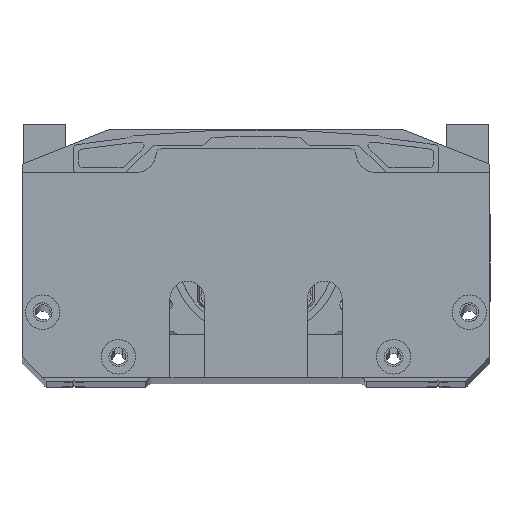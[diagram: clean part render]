
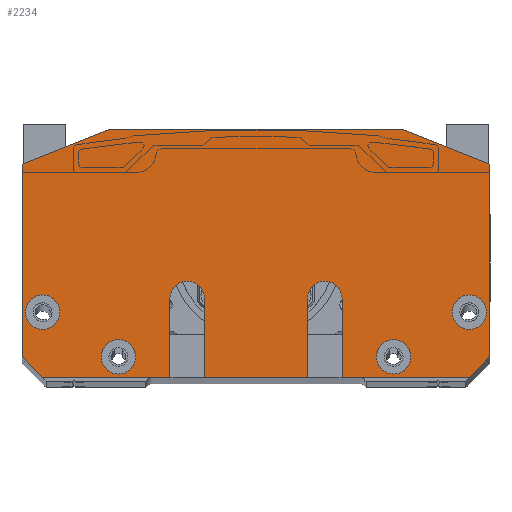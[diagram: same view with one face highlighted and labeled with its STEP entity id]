
A CAD part, top view. The second image highlights one B-rep face of the part: STEP entity #2234.
In plain terms, the highlighted planar face has unit normal (0, 0, 1).
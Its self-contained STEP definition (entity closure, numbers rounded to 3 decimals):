
#2234=ADVANCED_FACE('9',(#3307,#3308,#3309,#3310,#3311),#2891,.T.);
#2891=PLANE('',#18897);
#3307=FACE_BOUND('',#4323,.T.);
#3308=FACE_BOUND('',#4324,.T.);
#3309=FACE_BOUND('',#4325,.T.);
#3310=FACE_BOUND('',#4326,.T.);
#3311=FACE_BOUND('',#4327,.T.);
#4323=EDGE_LOOP('',(#8752,#8753,#8754,#8755,#8756,#8757,#8758,#8759,#8760,
#8761,#8762,#8763,#8764,#8765,#8766,#8767));
#4324=EDGE_LOOP('',(#8768));
#4325=EDGE_LOOP('',(#8769));
#4326=EDGE_LOOP('',(#8770));
#4327=EDGE_LOOP('',(#8771));
#5491=CIRCLE('',#18856,5.);
#5493=CIRCLE('',#18861,5.);
#5511=CIRCLE('',#18893,5.);
#5512=CIRCLE('',#18894,5.);
#5513=CIRCLE('',#18895,5.);
#5514=CIRCLE('',#18896,5.);
#8752=ORIENTED_EDGE('',*,*,#14328,.T.);
#8753=ORIENTED_EDGE('',*,*,#14330,.T.);
#8754=ORIENTED_EDGE('',*,*,#14324,.T.);
#8755=ORIENTED_EDGE('',*,*,#13430,.F.);
#8756=ORIENTED_EDGE('',*,*,#14336,.T.);
#8757=ORIENTED_EDGE('',*,*,#14338,.T.);
#8758=ORIENTED_EDGE('',*,*,#14332,.T.);
#8759=ORIENTED_EDGE('',*,*,#13427,.F.);
#8760=ORIENTED_EDGE('',*,*,#13444,.T.);
#8761=ORIENTED_EDGE('',*,*,#13470,.F.);
#8762=ORIENTED_EDGE('',*,*,#14347,.T.);
#8763=ORIENTED_EDGE('',*,*,#14369,.F.);
#8764=ORIENTED_EDGE('',*,*,#14350,.T.);
#8765=ORIENTED_EDGE('',*,*,#13383,.F.);
#8766=ORIENTED_EDGE('',*,*,#13415,.T.);
#8767=ORIENTED_EDGE('',*,*,#13433,.F.);
#8768=ORIENTED_EDGE('',*,*,#14370,.F.);
#8769=ORIENTED_EDGE('',*,*,#14371,.F.);
#8770=ORIENTED_EDGE('',*,*,#14372,.F.);
#8771=ORIENTED_EDGE('',*,*,#14373,.F.);
#11473=VERTEX_POINT('',#26926);
#11474=VERTEX_POINT('',#26928);
#11492=VERTEX_POINT('',#26986);
#11498=VERTEX_POINT('',#27007);
#11499=VERTEX_POINT('',#27009);
#11500=VERTEX_POINT('',#27012);
#11501=VERTEX_POINT('',#27014);
#11502=VERTEX_POINT('',#27017);
#11509=VERTEX_POINT('',#27038);
#11531=VERTEX_POINT('',#27088);
#12058=VERTEX_POINT('',#30633);
#12060=VERTEX_POINT('',#30639);
#12062=VERTEX_POINT('',#30648);
#12064=VERTEX_POINT('',#30654);
#12073=VERTEX_POINT('',#30679);
#12075=VERTEX_POINT('',#30685);
#12085=VERTEX_POINT('',#30725);
#12086=VERTEX_POINT('',#30727);
#12087=VERTEX_POINT('',#30729);
#12088=VERTEX_POINT('',#30731);
#13383=EDGE_CURVE('',#11473,#11474,#15534,.T.);
#13415=EDGE_CURVE('',#11473,#11492,#15556,.T.);
#13427=EDGE_CURVE('',#11498,#11499,#15567,.T.);
#13430=EDGE_CURVE('',#11500,#11501,#15570,.T.);
#13433=EDGE_CURVE('',#11502,#11492,#15573,.T.);
#13444=EDGE_CURVE('',#11498,#11509,#15583,.T.);
#13470=EDGE_CURVE('',#11531,#11509,#15607,.T.);
#14324=EDGE_CURVE('',#12058,#11501,#16022,.T.);
#14328=EDGE_CURVE('',#11502,#12060,#16026,.T.);
#14330=EDGE_CURVE('',#12060,#12058,#5491,.T.);
#14332=EDGE_CURVE('',#12062,#11499,#16028,.T.);
#14336=EDGE_CURVE('',#11500,#12064,#16032,.T.);
#14338=EDGE_CURVE('',#12064,#12062,#5493,.T.);
#14347=EDGE_CURVE('',#11531,#12073,#16037,.T.);
#14350=EDGE_CURVE('',#12075,#11474,#16040,.T.);
#14369=EDGE_CURVE('',#12075,#12073,#16046,.T.);
#14370=EDGE_CURVE('',#12085,#12085,#5511,.T.);
#14371=EDGE_CURVE('',#12086,#12086,#5512,.T.);
#14372=EDGE_CURVE('',#12087,#12087,#5513,.T.);
#14373=EDGE_CURVE('',#12088,#12088,#5514,.T.);
#15534=LINE('',#26927,#16832);
#15556=LINE('',#26987,#16854);
#15567=LINE('',#27008,#16865);
#15570=LINE('',#27013,#16868);
#15573=LINE('',#27018,#16871);
#15583=LINE('',#27039,#16881);
#15607=LINE('',#27089,#16905);
#16022=LINE('',#30632,#17320);
#16026=LINE('',#30640,#17324);
#16028=LINE('',#30647,#17326);
#16032=LINE('',#30655,#17330);
#16037=LINE('',#30678,#17335);
#16040=LINE('',#30684,#17338);
#16046=LINE('',#30723,#17344);
#16832=VECTOR('',#20772,1.);
#16854=VECTOR('',#20832,1.);
#16865=VECTOR('',#20851,1.);
#16868=VECTOR('',#20854,1.);
#16871=VECTOR('',#20857,1.);
#16881=VECTOR('',#20875,1.);
#16905=VECTOR('',#20907,1.);
#17320=VECTOR('',#22654,1.);
#17324=VECTOR('',#22660,1.);
#17326=VECTOR('',#22670,1.);
#17330=VECTOR('',#22676,1.);
#17335=VECTOR('',#22701,1.);
#17338=VECTOR('',#22706,1.);
#17344=VECTOR('',#22758,1.);
#18856=AXIS2_PLACEMENT_3D('',#30643,#22665,#22666);
#18861=AXIS2_PLACEMENT_3D('',#30658,#22681,#22682);
#18893=AXIS2_PLACEMENT_3D('',#30724,#22759,#22760);
#18894=AXIS2_PLACEMENT_3D('',#30726,#22761,#22762);
#18895=AXIS2_PLACEMENT_3D('',#30728,#22763,#22764);
#18896=AXIS2_PLACEMENT_3D('',#30730,#22765,#22766);
#18897=AXIS2_PLACEMENT_3D('',#30732,#22767,#22768);
#20772=DIRECTION('',(0.,1.,0.));
#20832=DIRECTION('',(0.707,-0.707,0.));
#20851=DIRECTION('',(-1.,0.,0.));
#20854=DIRECTION('',(-1.,0.,0.));
#20857=DIRECTION('',(-1.,0.,0.));
#20875=DIRECTION('',(0.707,0.707,0.));
#20907=DIRECTION('',(0.,-1.,0.));
#22654=DIRECTION('',(0.,-1.,0.));
#22660=DIRECTION('',(0.,1.,0.));
#22665=DIRECTION('',(0.,0.,-1.));
#22666=DIRECTION('',(1.,0.,0.));
#22670=DIRECTION('',(0.,-1.,0.));
#22676=DIRECTION('',(0.,1.,0.));
#22681=DIRECTION('',(0.,0.,-1.));
#22682=DIRECTION('',(-1.,0.,0.));
#22701=DIRECTION('',(-0.928,0.371,0.));
#22706=DIRECTION('',(-0.928,-0.371,0.));
#22758=DIRECTION('',(1.,0.,0.));
#22759=DIRECTION('',(0.,0.,1.));
#22760=DIRECTION('',(1.,0.,0.));
#22761=DIRECTION('',(0.,0.,1.));
#22762=DIRECTION('',(1.,0.,0.));
#22763=DIRECTION('',(0.,0.,1.));
#22764=DIRECTION('',(1.,0.,0.));
#22765=DIRECTION('',(0.,0.,1.));
#22766=DIRECTION('',(1.,0.,0.));
#22767=DIRECTION('',(0.,0.,1.));
#22768=DIRECTION('',(-1.,0.,0.));
#26926=CARTESIAN_POINT('',(-68.,6.,382.));
#26927=CARTESIAN_POINT('',(-68.,0.,382.));
#26928=CARTESIAN_POINT('',(-68.,62.,382.));
#26986=CARTESIAN_POINT('',(-62.,0.,382.));
#26987=CARTESIAN_POINT('',(-49.,-13.,382.));
#27007=CARTESIAN_POINT('',(62.,0.,382.));
#27008=CARTESIAN_POINT('',(68.,0.,382.));
#27009=CARTESIAN_POINT('',(25.,0.,382.));
#27012=CARTESIAN_POINT('',(15.,0.,382.));
#27013=CARTESIAN_POINT('',(68.,0.,382.));
#27014=CARTESIAN_POINT('',(-15.,0.,382.));
#27017=CARTESIAN_POINT('',(-25.,0.,382.));
#27018=CARTESIAN_POINT('',(68.,0.,382.));
#27038=CARTESIAN_POINT('',(68.,6.,382.));
#27039=CARTESIAN_POINT('',(49.,-13.,382.));
#27088=CARTESIAN_POINT('',(68.,62.,382.));
#27089=CARTESIAN_POINT('',(68.,0.,382.));
#30632=CARTESIAN_POINT('',(-15.,23.,382.));
#30633=CARTESIAN_POINT('',(-15.,23.,382.));
#30639=CARTESIAN_POINT('',(-25.,23.,382.));
#30640=CARTESIAN_POINT('',(-25.,23.,382.));
#30643=CARTESIAN_POINT('',(-20.,23.,382.));
#30647=CARTESIAN_POINT('',(25.,23.,382.));
#30648=CARTESIAN_POINT('',(25.,23.,382.));
#30654=CARTESIAN_POINT('',(15.,23.,382.));
#30655=CARTESIAN_POINT('',(15.,23.,382.));
#30658=CARTESIAN_POINT('',(20.,23.,382.));
#30678=CARTESIAN_POINT('',(18.345,81.862,382.));
#30679=CARTESIAN_POINT('',(43.,72.,382.));
#30684=CARTESIAN_POINT('',(-18.345,81.862,382.));
#30685=CARTESIAN_POINT('',(-43.,72.,382.));
#30723=CARTESIAN_POINT('',(68.,72.,382.));
#30724=CARTESIAN_POINT('',(-62.,19.,382.));
#30725=CARTESIAN_POINT('',(-57.,19.,382.));
#30726=CARTESIAN_POINT('',(62.,19.,382.));
#30727=CARTESIAN_POINT('',(67.,19.,382.));
#30728=CARTESIAN_POINT('',(-40.,6.,382.));
#30729=CARTESIAN_POINT('',(-35.,6.,382.));
#30730=CARTESIAN_POINT('',(40.,6.,382.));
#30731=CARTESIAN_POINT('',(45.,6.,382.));
#30732=CARTESIAN_POINT('',(0.,36.,382.));
